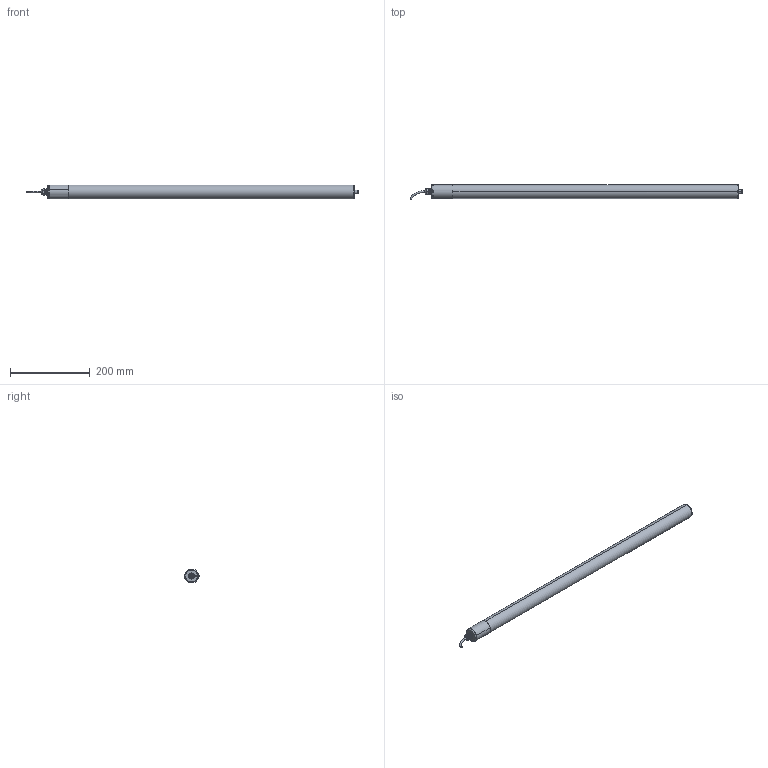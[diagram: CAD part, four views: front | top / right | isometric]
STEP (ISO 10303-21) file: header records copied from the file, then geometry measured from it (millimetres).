
FILE_DESCRIPTION (( 'STEP AP214' ), '1' );
FILE_NAME ('S114-600AL50.STEP', '2025-04-10T10:34:42', ( '' ), ( '' ), 'SwSTEP 2.0', 'SolidWorks 2023', '' );
FILE_SCHEMA (( 'AUTOMOTIVE_DESIGN' ));
Length unit declared in the file: millimetre
Products named in the file (1): S114-600AL50
Bounding box: 831.47 x 37.14 x 35 mm (x, y, z)
Surface area: 108485.4 mm2 (no closed solid volume)
Topology: 0 solids, 12 shells, 110 faces, 324 edges, 226 vertices
Faces by surface type: cylinder 48, plane 34, cone 14, torus 12, bspline 2
Entity records: 4235 total; most frequent: CARTESIAN_POINT 1359, DIRECTION 612, ORIENTED_EDGE 536, EDGE_CURVE 324, AXIS2_PLACEMENT_3D 253, VERTEX_POINT 226, CIRCLE 144, EDGE_LOOP 125
